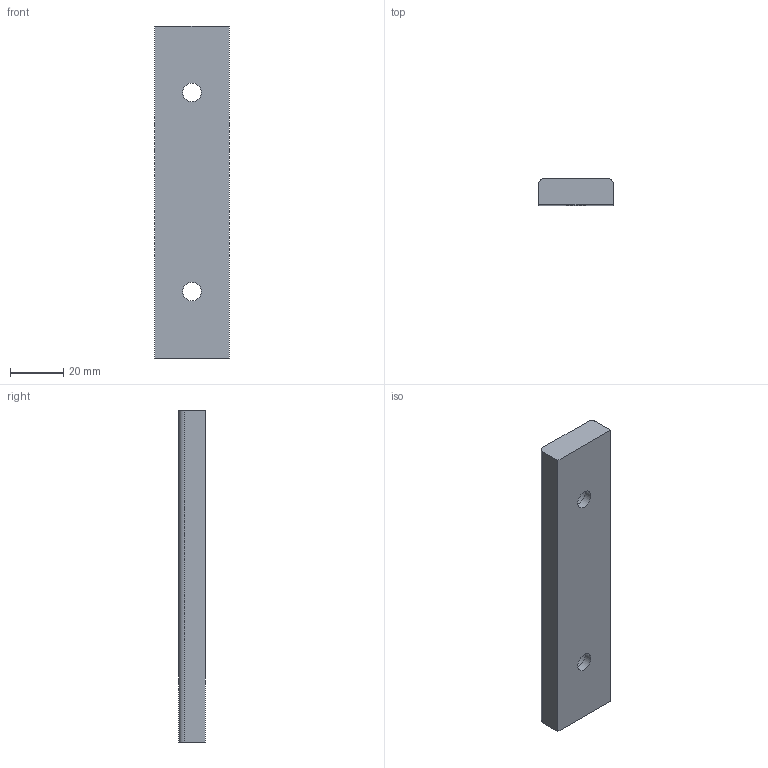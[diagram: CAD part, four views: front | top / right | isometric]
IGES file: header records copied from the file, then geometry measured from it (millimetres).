
Start section: Data from Parasolid IGES Translator 20.0.26, Copyright(c) 2006 Siemens P LM Software. All Rights Reserved.
Global section: file name: G220-01-028-125.igs; native system: By Siemens PLM Incorporated; preprocessor: XPlus GENERIC/IGES 20.0.26; author: Noname; organization: Noname; date: 20190708.081548; units: millimetre
Bounding box: 28 x 10 x 125 mm (x, y, z)
Surface area: 10303.8 mm2 (no closed solid volume)
Topology: 0 solids, 0 shells, 14 faces, 60 edges, 55 vertices
Faces by surface type: extrusion 8, revolution 6
